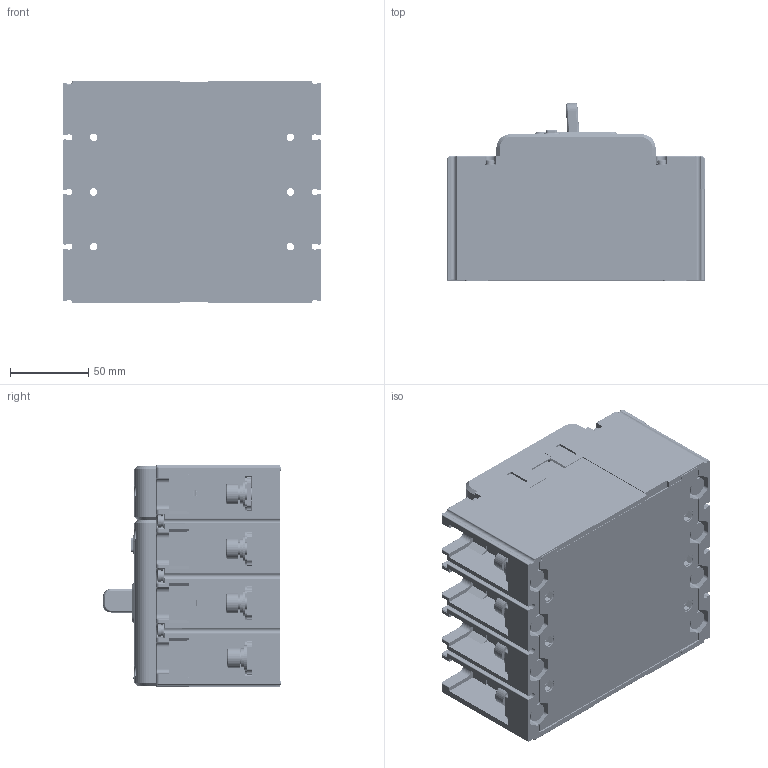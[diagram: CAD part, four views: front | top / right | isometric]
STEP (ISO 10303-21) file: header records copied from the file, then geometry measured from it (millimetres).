
FILE_DESCRIPTION((''),'2;1');
FILE_NAME('2258014100_ASM','2017-11-08T',('yan.shen'),(''),'PRO/ENGINEER BY PARAMETRIC TECHNOLOGY CORPORATION, 2015440','PRO/ENGINEER BY PARAMETRIC TECHNOLOGY CORPORATION, 2015440','');
FILE_SCHEMA(('CONFIG_CONTROL_DESIGN'));
Products named in the file (61): JZ-5DLX_024_269; GB_T809-M3X12; GB_T809-M4X12; 5024026900_ASM; 8510024900; 5420038400_ASM; 5420038500_ASM; 5551086700_ASM; 8505024100; 8510025000; 5420038600_ASM; 5420038700_ASM; 5551086800_ASM; 8510025100; 5420038800_ASM; 5420038900_ASM; 5551086900_ASM; 8585069400; 5551087000_ASM; 5551087100_ASM; 5295004000_ASM; 8551033100; 5551076600_ASM; 6760012000_ASM; 8751002100; 8300048900; 8750029700; MG-5DLX_315_442; GB_T809-M3X8; 5315044200_ASM; 8315058000; 8282018100; 8253003500; 7010100305R01_GB_T823_M3X10; 7090300201_GB_T93_3; GB_T97_4_3; 5850007700_ASM; 8253063200; 8315058500; 8322007100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
Assembly tree (117 placements, depth 8):
  2258014100_ASM
    6760012000_ASM
      5024026900_ASM
        JZ-5DLX_024_269
        GB_T809-M3X12  x4
        GB_T809-M4X12  x6
      5295004000_ASM
        5551087100_ASM
          5551086700_ASM
            5420038500_ASM
              5420038400_ASM
                8510024900
          5551086800_ASM
            8505024100
            5420038700_ASM
              5420038600_ASM
                8510025000
          5551086900_ASM
            5420038900_ASM
              5420038800_ASM
                8510025100
          5551087000_ASM
            8585069400
      5551076600_ASM  x4
        8551033100
    8751002100  x4
    8300048900  x2
    8750029700  x4
    5315044300_ASM
      5315044200_ASM
        MG-5DLX_315_442
        GB_T809-M3X8  x6
      8315058000
      8282018100
      8253003500
      5850007700_ASM  x6
        7010100305R01_GB_T823_M3X10
        7090300201_GB_T93_3
        GB_T97_4_3
      8253063200
      8315058500
      8322007100
      8322007000
    GB_T9074_4-M3X30  x4
    7030100437_GB_T9074_4_M4X30  x6
    8742102800
    5253022400_ASM
      8253057300
      8865077900_AF0
      8865078000_AF0
    5850004100_AF0_ASM
      GB_T70_1-M8X20
      7090200704_GB_T97_1_8
      7090370701K_GB_T93_8
    5850004100_AF1_ASM
      GB_T70_1-M8X20
      7090200704_GB_T97_1_8
      7090370701K_GB_T93_8
    5850004100_AF2_ASM
      GB_T70_1-M8X20
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Bounding box: 165 x 114.32 x 142 mm (x, y, z)
Volume: 713410.2 mm3; surface area: 482199.9 mm2
Topology: 107 solids, 163 shells, 7483 faces, 19450 edges, 12448 vertices
Faces by surface type: plane 3926, cylinder 2540, cone 296, torus 288, extrusion 188, bspline 138, sphere 107
Entity records: 207087 total; most frequent: CARTESIAN_POINT 51872, ORIENTED_EDGE 32358, DIRECTION 32030, EDGE_CURVE 16213, VECTOR 10814, LINE 10626, AXIS2_PLACEMENT_3D 10608, VERTEX_POINT 10401
